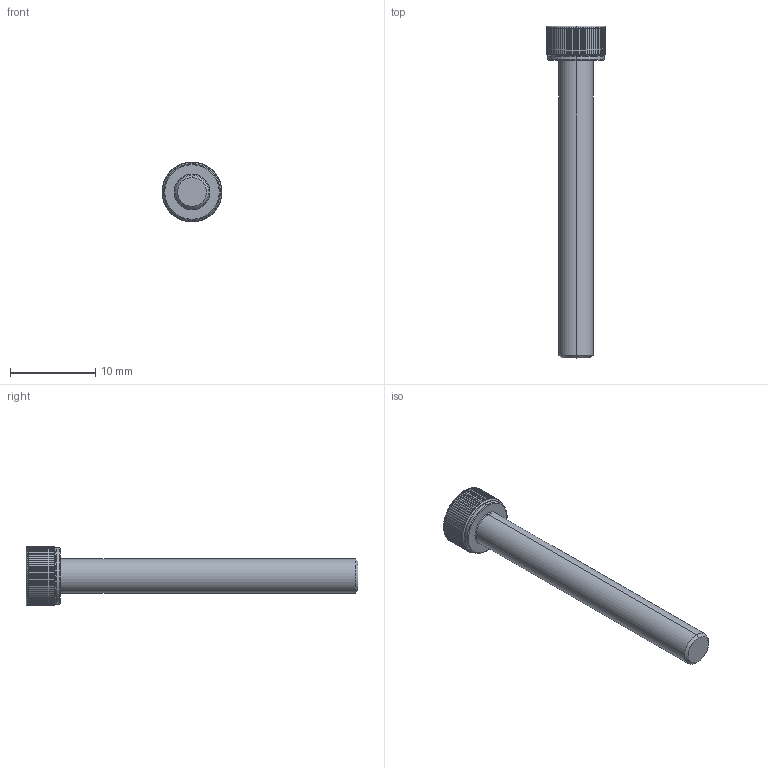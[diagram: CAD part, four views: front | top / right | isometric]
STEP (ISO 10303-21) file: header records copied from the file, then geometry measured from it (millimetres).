
FILE_DESCRIPTION (( 'STEP AP203' ), '1' );
FILE_NAME ('LGDT-304-M4x35.STEP', '2026-08-10T01:47:08', ( '' ), ( '' ), 'SwSTEP 2.0', 'SolidWorks 2020', '' );
FILE_SCHEMA (( 'CONFIG_CONTROL_DESIGN' ));
Length unit declared in the file: millimetre
Products named in the file (1): LGDT-304-M4x35
Bounding box: 7 x 39 x 7 mm (x, y, z)
Volume: 570.5 mm3; surface area: 620.9 mm2
Topology: 1 solids, 1 shells, 204 faces, 576 edges, 376 vertices
Faces by surface type: cylinder 175, cone 11, plane 10, torus 8
Entity records: 10019 total; most frequent: CARTESIAN_POINT 4860, ORIENTED_EDGE 1152, DIRECTION 988, EDGE_CURVE 576, AXIS2_PLACEMENT_3D 398, VERTEX_POINT 376, EDGE_LOOP 206, ADVANCED_FACE 204
